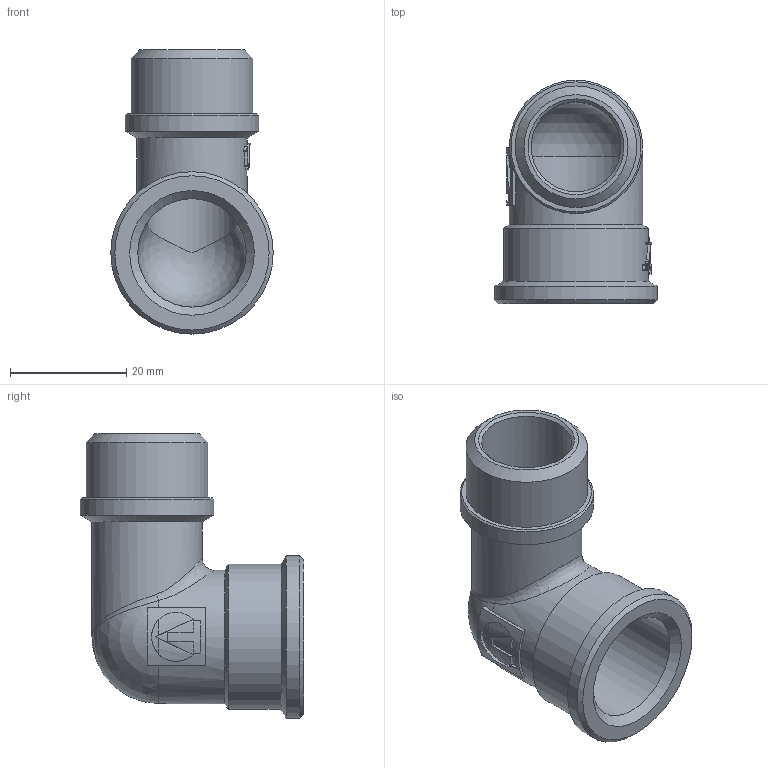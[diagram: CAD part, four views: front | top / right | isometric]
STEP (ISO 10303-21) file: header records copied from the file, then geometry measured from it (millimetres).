
FILE_DESCRIPTION(('STEP AP203'), '1');
FILE_NAME('ÂÐ.752218.002 - VTr.092.N.0004 - Ôèò. ðåçüá. óãîë', '2024-06-20T13:34:20', ('Boss'), (''), 'C3D Converter', 'C3D Toolkit', '');
FILE_SCHEMA(('CONFIG_CONTROL_DESIGN'));
Length unit declared in the file: millimetre
Products named in the file (1): ВР.752218.002
Bounding box: 28 x 38.5 x 49 mm (x, y, z)
Volume: 9475.2 mm3; surface area: 8104.2 mm2
Topology: 1 solids, 1 shells, 216 faces, 600 edges, 394 vertices
Faces by surface type: extrusion 116, plane 63, cylinder 23, cone 8, sphere 3, bspline 3
Full cylindrical faces by diameter (mm): 15.5 x1, 18.7 x1, 19 x1, 20.955 x1, 23 x2, 25 x1, 28 x1
Entity records: 11108 total; most frequent: CARTESIAN_POINT 6326, ORIENTED_EDGE 1158, DIRECTION 613, EDGE_CURVE 579, VERTEX_POINT 394, B_SPLINE_CURVE_WITH_KNOTS 365, VECTOR 313, EDGE_LOOP 247
